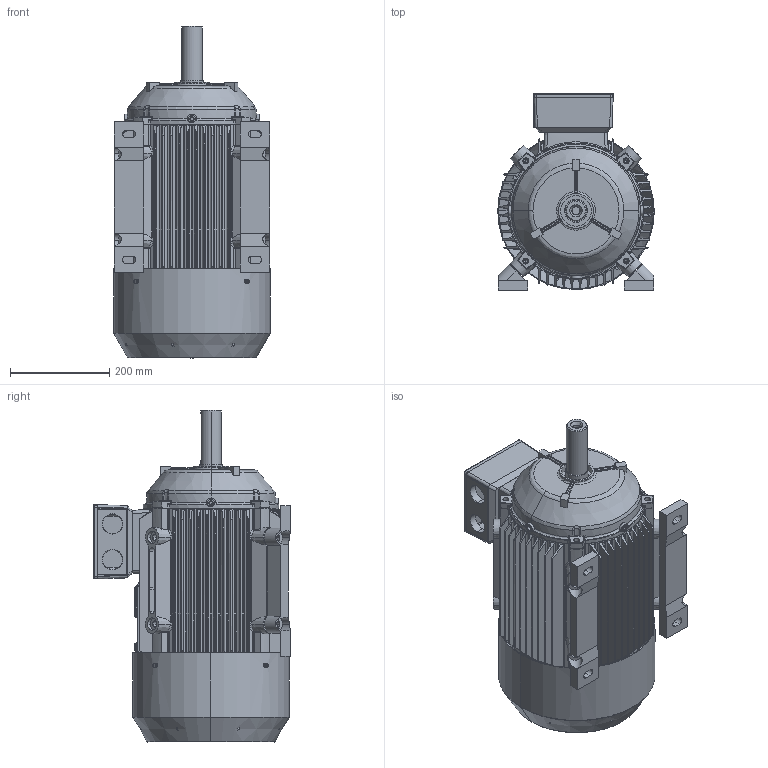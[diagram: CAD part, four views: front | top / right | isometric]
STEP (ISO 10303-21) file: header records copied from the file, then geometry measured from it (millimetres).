
FILE_DESCRIPTION (( 'STEP AP214' ), '1' );
FILE_NAME ('M3-160L_B3.STEP', '2016-01-19T10:43:33', ( '' ), ( '' ), 'SwSTEP 2.0', 'SolidWorks 2012', '' );
FILE_SCHEMA (( 'AUTOMOTIVE_DESIGN' ));
Products named in the file (10): Welle_HS160L; Fuss_HS160L; NDE-Schild_HS160; Klemmenkastendeckel_HS160; Klemmenkasten_HS160; DE-Schild_HS160; L黤terfl黦el_HS160; Lüfterhaube_HS160; Stator_HS160L_ow; M3-160L_B3
Assembly tree (10 placements, depth 2):
  M3-160L_B3
    Stator_HS160L_ow
    Lüfterhaube_HS160
    L黤terfl黦el_HS160
    DE-Schild_HS160
    Klemmenkasten_HS160
    Klemmenkastendeckel_HS160
    NDE-Schild_HS160
    Fuss_HS160L  x2
    Welle_HS160L
Bounding box: 315.98 x 397 x 670.13 mm (x, y, z)
Volume: 11488178.5 mm3; surface area: 2619561.5 mm2
Topology: 10 solids, 10 shells, 4106 faces, 11132 edges, 7049 vertices
Faces by surface type: plane 2163, bspline 870, cylinder 832, cone 241
Entity records: 191792 total; most frequent: CARTESIAN_POINT 93865, ORIENTED_EDGE 21790, DIRECTION 16749, EDGE_CURVE 10895, VERTEX_POINT 6975, LINE 6687, VECTOR 6687, EDGE_LOOP 5064
